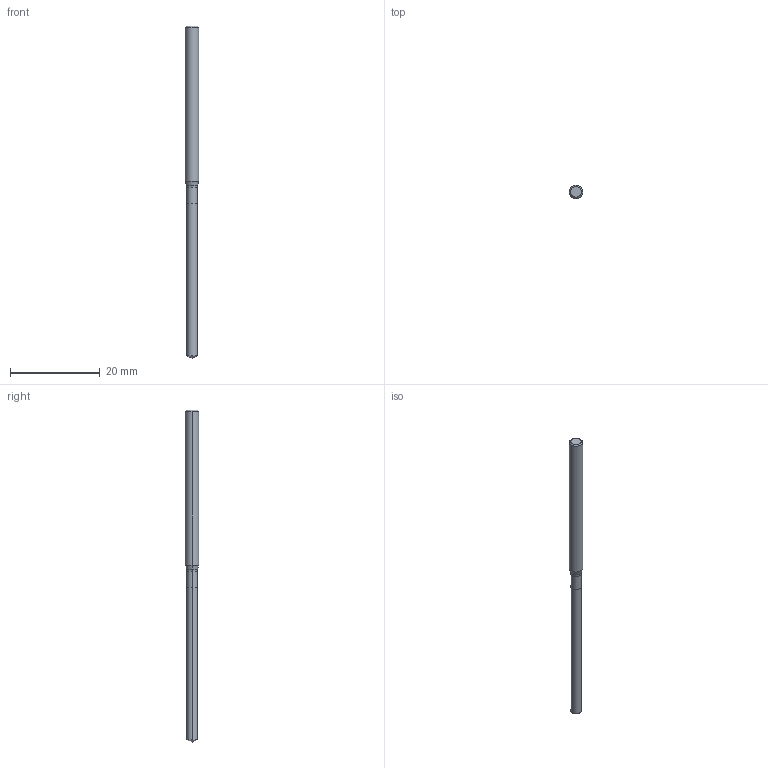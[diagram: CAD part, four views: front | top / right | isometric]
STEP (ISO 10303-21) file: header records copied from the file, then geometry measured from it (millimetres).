
FILE_DESCRIPTION (( 'STEP AP214' ), '1' );
FILE_NAME ('710.024.00_3D-model.step', '2022-02-22T04:32:08', ( '' ), ( '' ), 'SwSTEP 2.0', 'SolidWorks 2020', '' );
FILE_SCHEMA (( 'AUTOMOTIVE_DESIGN' ));
Length unit declared in the file: millimetre
Products named in the file (3): NOCUT-3D^Baugr134; 710.024.00_3D-model; CUT-3D^Baugr134
Assembly tree (2 placements, depth 2):
  710.024.00_3D-model
    CUT-3D^Baugr134
    NOCUT-3D^Baugr134
Bounding box: 3 x 3 x 74 mm (x, y, z)
Volume: 422.4 mm3; surface area: 640.1 mm2
Topology: 2 solids, 2 shells, 17 faces, 32 edges, 17 vertices
Faces by surface type: cone 6, cylinder 6, plane 3, torus 2
Entity records: 532 total; most frequent: DIRECTION 98, CARTESIAN_POINT 72, ORIENTED_EDGE 60, AXIS2_PLACEMENT_3D 43, EDGE_CURVE 30, CIRCLE 18, ADVANCED_FACE 17, FACE_OUTER_BOUND 17
